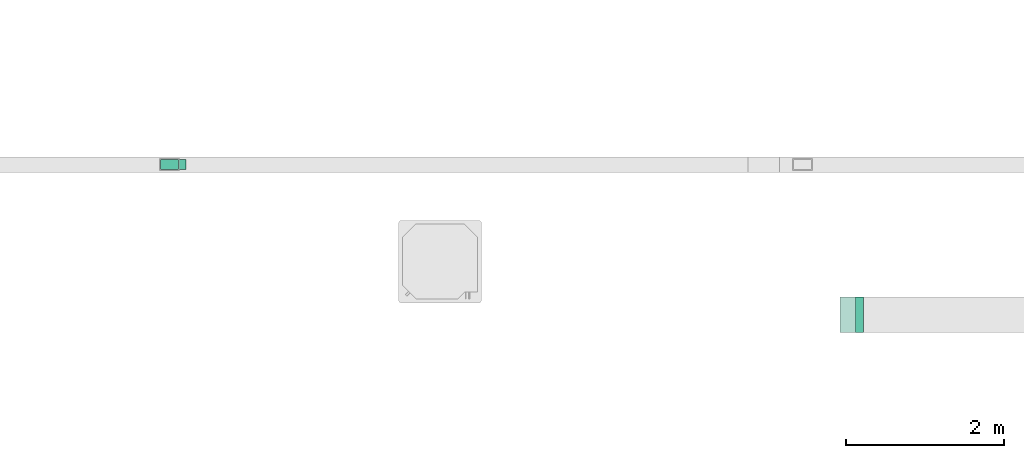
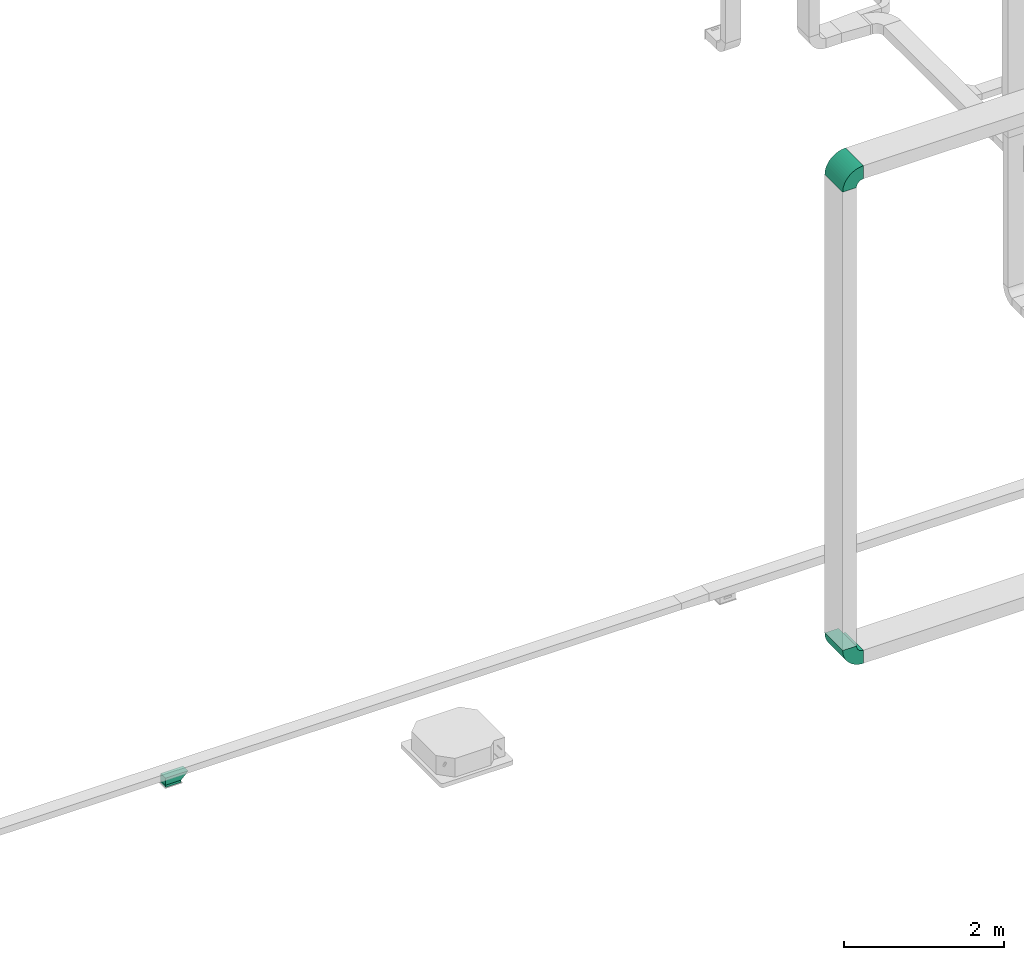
# One storey, part 4 of 22: 3 flow fittings, 1 flow segment.
"""IFC2X3 building model written with IfcOpenShell, lengths in millimetres."""

import ifcopenshell
import ifcopenshell.guid

model = None  # the IFC model being written
_history = None  # IfcOwnerHistory: only IFC2X3 demands one
_inside = {}  # id of a spatial element -> (the spatial element, [elements in it])
_under = {}  # id of a project, library or spatial element -> (it, [spatial elements below it])
_declared = {}  # id of a project -> (the project, [libraries it declares])
_typed = {}  # id of a type object -> (the type object, [elements of that type])
_made_of = {}  # id of a material, layer set ... -> (it, [elements and type objects made of it])


def new_model(schema):
    """Start an empty IFC model of exactly this schema.

    Asked for "IFC4X3", IfcOpenShell would pick the latest addendum, in which some entities
    have other attributes; the version numbers below select the first issue.
    IFC2X3 requires an IfcOwnerHistory on every rooted entity: one is made here for all.
    """
    global model, _history
    if schema == "IFC4X3":
        model = ifcopenshell.file(schema_version=(4, 3, 0, 0))
    else:
        model = ifcopenshell.file(schema=schema)
    _inside.clear()
    _under.clear()
    _declared.clear()
    _typed.clear()
    _made_of.clear()
    _history = None
    if model.schema == "IFC2X3":
        org = make("IfcOrganization", Name="unknown")
        user = make(
            "IfcPersonAndOrganization",
            ThePerson=make("IfcPerson", FamilyName="unknown"),
            TheOrganization=org,
        )
        app = make(
            "IfcApplication",
            ApplicationDeveloper=org,
            Version="unknown",
            ApplicationFullName="unknown",
            ApplicationIdentifier="unknown",
        )
        _history = make(
            "IfcOwnerHistory",
            OwningUser=user,
            OwningApplication=app,
            ChangeAction="ADDED",
            CreationDate=0,
        )
    return model


def make(cls, **values):
    """One entity of the class cls with the attributes given. An attribute that is None is left unset."""
    return model.create_entity(
        cls, **{name: value for name, value in values.items() if value is not None}
    )


def entity(cls, *values):
    """Any entity or typed value of the class cls, its attributes in the order of the schema. None: left unset."""
    e = model.create_entity(cls)
    for i, value in enumerate(values):
        if value is not None:
            e[i] = value
    return e


def rooted(cls, **values):
    """An entity with a GlobalId (a new one), such as an element, a storey or a relation."""
    return make(cls, GlobalId=ifcopenshell.guid.new(), OwnerHistory=_history, **values)


def si_unit(unit_type, name, prefix=None):
    """IfcSIUnit, for example si_unit("LENGTHUNIT", "METRE", prefix="MILLI")."""
    return make("IfcSIUnit", UnitType=unit_type, Prefix=prefix, Name=name)


def converted_unit(unit_type, name, factor, base, dimensions=None, offset=None):
    """IfcConversionBasedUnit, such as the inch: factor (a typed value) times the base unit."""
    return make(
        "IfcConversionBasedUnit"
        if offset is None
        else "IfcConversionBasedUnitWithOffset",
        ConversionOffset=offset,
        Dimensions=None
        if dimensions is None
        else entity("IfcDimensionalExponents", *dimensions),
        UnitType=unit_type,
        Name=name,
        ConversionFactor=make(
            "IfcMeasureWithUnit", ValueComponent=factor, UnitComponent=base
        ),
    )


def derived_unit(unit_type, elements):
    """IfcDerivedUnit: a product of units, each with its exponent."""
    return make(
        "IfcDerivedUnit",
        Elements=[
            make("IfcDerivedUnitElement", Unit=unit, Exponent=power)
            for unit, power in elements
        ],
        UnitType=unit_type,
    )


def assignment(units):
    """IfcUnitAssignment: the units of a project."""
    return None if units is None else make("IfcUnitAssignment", Units=units)


def point(xyz):
    """IfcCartesianPoint."""
    return None if xyz is None else make("IfcCartesianPoint", Coordinates=xyz)


def direction(xyz):
    """IfcDirection."""
    return None if xyz is None else make("IfcDirection", DirectionRatios=xyz)


def frame(location, z_axis=None, x_axis=None):
    """IfcAxis2Placement3D, a coordinate frame: its origin and axes. An axis left out is left unset."""
    return make(
        "IfcAxis2Placement3D",
        Location=point(location),
        Axis=direction(z_axis),
        RefDirection=direction(x_axis),
    )


def frame_2d(location, x_axis=None):
    """IfcAxis2Placement2D, a coordinate frame in the plane: its origin and x axis."""
    return make(
        "IfcAxis2Placement2D", Location=point(location), RefDirection=direction(x_axis)
    )


def origin():
    """The frame at (0, 0, 0) with its axes left unset."""
    return frame((0.0, 0.0, 0.0))


def origin_2d_with_axis():
    """The frame at (0, 0) in the plane with the x axis (1, 0) written out."""
    return frame_2d((0.0, 0.0), x_axis=(1.0, 0.0))


def place(relative_to, where):
    """IfcLocalPlacement: puts the frame where relative to a parent placement (None: the world)."""
    return make(
        "IfcLocalPlacement", PlacementRelTo=relative_to, RelativePlacement=where
    )


def context(
    kind, dimensions, precision=None, world=None, true_north=None, identifier=None
):
    """IfcGeometricRepresentationContext, for example the 3D "Model" context."""
    return make(
        "IfcGeometricRepresentationContext",
        ContextIdentifier=identifier,
        ContextType=kind,
        CoordinateSpaceDimension=dimensions,
        Precision=precision,
        WorldCoordinateSystem=world,
        TrueNorth=true_north,
    )


def subcontext(parent, identifier, kind, view, scale=None):
    """IfcGeometricRepresentationSubContext, for example "Body" below "Model"."""
    return make(
        "IfcGeometricRepresentationSubContext",
        ContextIdentifier=identifier,
        ContextType=kind,
        ParentContext=parent,
        TargetScale=scale,
        TargetView=view,
    )


def project(units=None, contexts=None):
    """IfcProject with its units and contexts."""
    return rooted(
        "IfcProject",
        Name="project",
        RepresentationContexts=contexts,
        UnitsInContext=assignment(units),
    )


def spatial(cls, under=None, at=None, **own):
    """A site, building, storey or space (cls), placed at a placement, below another one or the project."""
    s = rooted(cls, ObjectPlacement=at, **own)
    if under is not None:
        _under.setdefault(under.id(), (under, []))[1].append(s)
    return s


def polyline(points):
    """IfcPolyline through the points."""
    return make("IfcPolyline", Points=[point(p) for p in points])


def circle_curve(where, radius):
    """IfcCircle in the frame where."""
    return make("IfcCircle", Position=where, Radius=radius)


def parameter(value):
    """IfcParameterValue: where a trimmed curve begins or ends, as a parameter of its basis curve."""
    return model.create_entity("IfcParameterValue", value)


def trimmed(basis, trim1, trim2, sense, master):
    """IfcTrimmedCurve: the piece of a basis curve between two trims."""
    return make(
        "IfcTrimmedCurve",
        BasisCurve=basis,
        Trim1=trim1,
        Trim2=trim2,
        SenseAgreement=sense,
        MasterRepresentation=master,
    )


def segment(curve, same_sense, transition):
    """IfcCompositeCurveSegment."""
    return make(
        "IfcCompositeCurveSegment",
        Transition=transition,
        SameSense=same_sense,
        ParentCurve=curve,
    )


def composite_curve(segments, self_intersect=None):
    """IfcCompositeCurve: segments joined end to end."""
    return make("IfcCompositeCurve", Segments=segments, SelfIntersect=self_intersect)


def profile(cls, at=None, kind="AREA", **sizes):
    """A parametric profile (cls). Its sizes go by their IFC names, for example OverallWidth=200.0."""
    return make(cls, ProfileType=kind, Position=at, **sizes)


def rectangle(**sizes):
    """IfcRectangleProfileDef."""
    return profile("IfcRectangleProfileDef", **sizes)


def outline(outer, holes=None, kind="AREA"):
    """IfcArbitraryClosedProfileDef: a profile drawn as a closed curve; with holes, ...WithVoids."""
    if holes is None:
        return make("IfcArbitraryClosedProfileDef", ProfileType=kind, OuterCurve=outer)
    return make(
        "IfcArbitraryProfileDefWithVoids",
        ProfileType=kind,
        OuterCurve=outer,
        InnerCurves=holes,
    )


def extrude(swept, where, along, depth):
    """IfcExtrudedAreaSolid: the profile swept, set in the frame where, extruded along a direction by depth."""
    return make(
        "IfcExtrudedAreaSolid",
        SweptArea=swept,
        Position=where,
        ExtrudedDirection=direction(along),
        Depth=depth,
    )


def shape(context_of_items, identifier, shape_type, items):
    """IfcShapeRepresentation: the items that make up one representation, for example the "Body"."""
    return make(
        "IfcShapeRepresentation",
        ContextOfItems=context_of_items,
        RepresentationIdentifier=identifier,
        RepresentationType=shape_type,
        Items=items,
    )


def source(mapping_origin, context_of_items, identifier, shape_type, items):
    """IfcRepresentationMap: a shape defined once, which mapped items show again and again."""
    return make(
        "IfcRepresentationMap",
        MappingOrigin=mapping_origin,
        MappedRepresentation=shape(context_of_items, identifier, shape_type, items),
    )


def transform(
    local_origin,
    x_axis=None,
    y_axis=None,
    z_axis=None,
    scale=None,
    scale2=None,
    scale3=None,
    uniform=True,
):
    """IfcCartesianTransformationOperator3D, or its non-uniform kind. x_axis, y_axis, z_axis: its Axis1, 2, 3."""
    if uniform:
        return make(
            "IfcCartesianTransformationOperator3D",
            Axis1=direction(x_axis),
            Axis2=direction(y_axis),
            LocalOrigin=point(local_origin),
            Scale=scale,
            Axis3=direction(z_axis),
        )
    return make(
        "IfcCartesianTransformationOperator3DnonUniform",
        Axis1=direction(x_axis),
        Axis2=direction(y_axis),
        LocalOrigin=point(local_origin),
        Scale=scale,
        Axis3=direction(z_axis),
        Scale2=scale2,
        Scale3=scale3,
    )


def mapped(mapping_source, mapping_target):
    """IfcMappedItem: shows the shape of a source again, moved by a transform."""
    return make(
        "IfcMappedItem", MappingSource=mapping_source, MappingTarget=mapping_target
    )


def material(Name=None, Category=None):
    """IfcMaterial."""
    return make("IfcMaterial", Name=Name, Category=Category)


def made_of(thing, what):
    """Note that an element or type object is made of a material, layer set ...; save() writes the relation."""
    if what is not None:
        _made_of.setdefault(what.id(), (what, []))[1].append(thing)
    return thing


def type_object(cls, material=None, **own):
    """A type object (cls), such as IfcWallType, which elements share."""
    return made_of(rooted(cls, **own), material)


def type_shapes(of_type, sources):
    """Give a type object the sources (RepresentationMaps) that its elements show as mapped items."""
    of_type.RepresentationMaps = sources


def element(
    cls,
    number,
    at=None,
    inside=None,
    cuts=None,
    type_object=None,
    material=None,
    context=None,
    identifier="Body",
    shape_type=None,
    held_by="IfcProductDefinitionShape",
    body=None,
    shapes=None,
    **own,
):
    """One element of the class cls, such as IfcWall. Its Tag is "e" and its number.

    at: its placement. inside: the storey or other place that contains it. cuts: it is an
    opening in that element (IfcRelVoidsElement). A single representation is given by context,
    identifier, shape_type and body (its items); several are given by shapes. held_by: the class
    of the entity that holds the representations. save() writes the other relations.
    """
    e = rooted(cls, Tag="e%d" % number, ObjectPlacement=at, **own)
    if body is not None:
        shapes = [shape(context, identifier, shape_type, body)]
    if shapes is not None:
        e.Representation = make(held_by, Representations=shapes)
    if inside is not None:
        _inside.setdefault(inside.id(), (inside, []))[1].append(e)
    if cuts is not None:
        rooted(
            "IfcRelVoidsElement", RelatingBuildingElement=cuts, RelatedOpeningElement=e
        )
    if type_object is not None:
        _typed.setdefault(type_object.id(), (type_object, []))[1].append(e)
    return made_of(e, material)


def aggregate(whole, parts):
    """IfcRelAggregates: a whole, such as a stair, and the parts it consists of."""
    return rooted("IfcRelAggregates", RelatingObject=whole, RelatedObjects=parts)


def save(model, path):
    """Write the relations noted so far, then the file.

    IfcRelAggregates (storeys below a building ...), IfcRelContainedInSpatialStructure (elements
    in a storey), IfcRelDefinesByType, IfcRelAssociatesMaterial and IfcRelDeclares: one each for
    every whole, place, type object, material and project.
    """
    for whole, parts in _under.values():
        aggregate(whole, parts)
    for where, things in _inside.values():
        rooted(
            "IfcRelContainedInSpatialStructure",
            RelatedElements=things,
            RelatingStructure=where,
        )
    for kind, things in _typed.values():
        rooted("IfcRelDefinesByType", RelatedObjects=things, RelatingType=kind)
    for what, things in _made_of.values():
        rooted("IfcRelAssociatesMaterial", RelatedObjects=things, RelatingMaterial=what)
    for by, libraries in _declared.values():
        rooted("IfcRelDeclares", RelatingContext=by, RelatedDefinitions=libraries)
    model.write(path)


model = new_model("IFC2X3")

# Units and contexts
model_context = context("Model", 3, precision=0.01, world=origin(), true_north=direction((6.123233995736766e-17, 1.0)))
body_context = subcontext(model_context, "Body", "Model", "MODEL_VIEW")
ifc_project = project(units=[si_unit("LENGTHUNIT", "METRE", prefix="MILLI"), converted_unit("PLANEANGLEUNIT", "DEGREE", entity("IfcPlaneAngleMeasure", 0.017453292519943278), si_unit("PLANEANGLEUNIT", "RADIAN"), dimensions=[0, 0, 0, 0, 0, 0, 0]), si_unit("AREAUNIT", "SQUARE_METRE"), derived_unit("THERMALTRANSMITTANCEUNIT", [(si_unit("MASSUNIT", "GRAM", prefix="KILO"), 1), (si_unit("THERMODYNAMICTEMPERATUREUNIT", "KELVIN"), -1), (si_unit("TIMEUNIT", "SECOND"), -3)])], contexts=[model_context])

# Site, building, storey
site_placement = place(None, origin())
site = spatial("IfcSite", under=ifc_project, at=site_placement, Name="Default", CompositionType="ELEMENT")
building_placement = place(site_placement, origin())
building = spatial("IfcBuilding", under=site, at=building_placement, Name="Praça Pedro II, 1301 - Centro (Sul), Teresina - PI, 64001-100", CompositionType="ELEMENT")
storey_placement = place(building_placement, frame((0.0, 0.0, 320.0)))
storey = spatial("IfcBuildingStorey", under=building, at=storey_placement, Name="TÉRREO +0.32m", CompositionType="ELEMENT", Elevation=319.99999999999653)

# Flow segment
duct_segment_type = type_object("IfcDuctSegmentType", Name="Duto retangular:Raios cotovelos / torneiras", PredefinedType="NOTDEFINED")
flow_segment_placement = place(storey_placement, origin())
element("IfcFlowSegment", 1, at=flow_segment_placement, inside=storey, type_object=duct_segment_type, Name="Duto retangular:Raios cotovelos / torneiras", ObjectType="Duto retangular:Raios cotovelos / torneiras", context=body_context, shape_type="SweptSolid", body=[
    extrude(rectangle(XDim=125.00000000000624, YDim=225.00000000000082, at=origin_2d_with_axis()), frame((19558.659598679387, -68787.15918292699, 2040.0), z_axis=(0.0, 0.0, 1.0), x_axis=(0.0, 1.0, 0.0)), (0.0, 0.0, 1.0), 34.99999999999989),
])

# Flow fittings
ifc_material = material(Name="<Unnamed>")
duct_fitting_type_1 = type_object("IfcDuctFittingType", Name="BTS vanes:1 Splitter Vanes", PredefinedType="NOTDEFINED", material=ifc_material)
shared_shape_1 = source(origin(), body_context, "Body", "SweptSolid", [
    extrude(outline(composite_curve([segment(polyline([(-200.0, -100.0), (0.0, -100.0)]), True, "CONTINUOUS"), segment(trimmed(circle_curve(frame_2d((100.0, -100.0), x_axis=(0.0, 1.0)), 99.99999999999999), [parameter(0.0)], [parameter(90.00000000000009)], True, "PARAMETER"), False, "CONTINUOUS"), segment(polyline([(100.0, 0.0), (100.0, 200.0)]), True, "CONTINUOUS"), segment(trimmed(circle_curve(frame_2d((100.0, -100.0), x_axis=(0.0, 1.0)), 300.0), [parameter(0.0)], [parameter(90.00000000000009)], True, "PARAMETER"), True, "CONTINUOUS")], self_intersect=False)), frame((-100.0, 100.0, -225.0), z_axis=(0.0, 0.0, 1.0), x_axis=(-1.0, 0.0, 0.0)), (0.0, 0.0, 1.0), 450.00000000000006),
    extrude(outline(composite_curve([segment(polyline([(-77.63157894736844, -59.21052631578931), (-40.789473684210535, -59.21052631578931)]), True, "CONTINUOUS"), segment(trimmed(circle_curve(frame_2d((59.21052631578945, -59.21052631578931), x_axis=(0.0, 1.0)), 99.99999999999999), [parameter(0.0)], [parameter(90.00000000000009)], True, "PARAMETER"), False, "CONTINUOUS"), segment(polyline([(59.21052631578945, 40.78947368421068), (59.21052631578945, 77.63157894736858)]), True, "CONTINUOUS"), segment(trimmed(circle_curve(frame_2d((59.21052631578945, -59.21052631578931), x_axis=(0.0, 1.0)), 136.84210526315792), [parameter(0.0)], [parameter(90.00000000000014)], True, "PARAMETER"), True, "CONTINUOUS")], self_intersect=False)), frame((-140.78947368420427, 140.78947368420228, -225.0), z_axis=(0.0, 0.0, 1.0), x_axis=(-1.0, 0.0, 0.0)), (0.0, 0.0, 1.0), 450.00000000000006),
])
type_shapes(duct_fitting_type_1, [shared_shape_1])
for number, where, z_axis, x_axis, name in (
    (2, (28151.20759930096, -70691.28932437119, 2175.0), (0.0, 1.0, 0.0), (-1.0, 0.0, 0.0), "BTS vanes:1 Splitter Vanes"),
    (3, (28151.207599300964, -70691.28932437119, 9587.0), (0.0, 1.0, 0.0), (0.0, 0.0, 1.0), "BTS vanes:1 Splitter Vanes"),
):
    element("IfcFlowFitting", number, at=place(storey_placement, frame(where, z_axis=z_axis, x_axis=x_axis)), inside=storey, type_object=duct_fitting_type_1, material=ifc_material, Name=name, ObjectType="BTS vanes:1 Splitter Vanes", context=body_context, shape_type="MappedRepresentation", body=[
        mapped(shared_shape_1, transform((0.0, 0.0, 0.0), scale=1.0)),
    ])
duct_fitting_type_2 = type_object("IfcDuctFittingType", Name="M_Rectangular Tap - Beveled:Standard", PredefinedType="NOTDEFINED", material=ifc_material)
shared_shape_2 = source(origin(), body_context, "Body", "SweptSolid", [
    extrude(outline(polyline([(-175.0, -62.43840000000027), (50.0, -62.43840000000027), (150.0, 37.561599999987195), (150.0, 43.65760000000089), (-175.0, 43.65759999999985), (-175.0, -62.43840000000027)])), frame((37.56160000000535, 62.50000000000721, -62.49999999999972), z_axis=(0.0, 0.0, 1.0), x_axis=(0.0, 1.0, 0.0)), (0.0, 0.0, 1.0), 124.99999999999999),
])
type_shapes(duct_fitting_type_2, [shared_shape_2])
flow_fitting_placement = place(storey_placement, frame((19558.659598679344, -68787.15918292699, 2175.0), z_axis=(0.0, -1.0, 0.0), x_axis=(0.0, 0.0, -1.0)))
element("IfcFlowFitting", 4, at=flow_fitting_placement, inside=storey, type_object=duct_fitting_type_2, material=ifc_material, Name="M_Rectangular Tap - Beveled:Standard", ObjectType="M_Rectangular Tap - Beveled:Standard", context=body_context, shape_type="MappedRepresentation", body=[
    mapped(shared_shape_2, transform((0.0, 0.0, 0.0), scale=1.0)),
])

save(model, "model.ifc")
